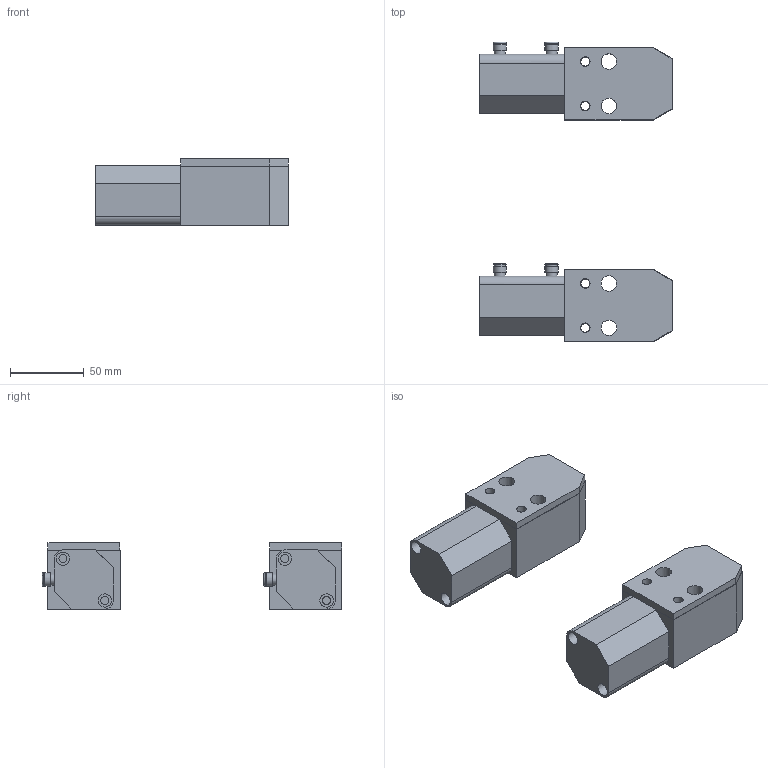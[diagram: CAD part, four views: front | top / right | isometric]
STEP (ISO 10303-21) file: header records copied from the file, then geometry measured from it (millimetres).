
FILE_DESCRIPTION(('STEP AP214'),'1');
FILE_NAME('1004.0016.stp','2020-05-22T14:12:50',(' '),(' '),'Spatial InterOp 3D',' ',' ');
FILE_SCHEMA(('AUTOMOTIVE_DESIGN { 1 0 10303 214 1 1 1 1 }'));
Length unit declared in the file: millimetre
Products named in the file (7): (PMS) 1004.0016; 2; 1; Assemblato; (PMI) 1004.0016; 5; 4
Assembly tree (6 placements, depth 3):
  Assemblato
    (PMS) 1004.0016
      2
      1
    (PMI) 1004.0016
      5
      4
Bounding box: 130.5 x 202.75 x 45 mm (x, y, z)
Volume: 417516.9 mm3; surface area: 81417.1 mm2
Topology: 4 solids, 4 shells, 720 faces, 1908 edges, 1274 vertices
Faces by surface type: extrusion 360, plane 262, cylinder 86, torus 12
Full cylindrical faces by diameter (mm): 5.5 x4, 6 x4, 6.5 x4, 7.5 x8, 9 x12, 10.5 x4, 16 x4, 17 x4, 20 x2
Entity records: 28300 total; most frequent: CARTESIAN_POINT 5985, ORIENTED_EDGE 3672, DIRECTION 2404, EDGE_CURVE 1836, VECTOR 1286, VERTEX_POINT 1260, B_SPLINE_CURVE_WITH_KNOTS 1080, LINE 926
